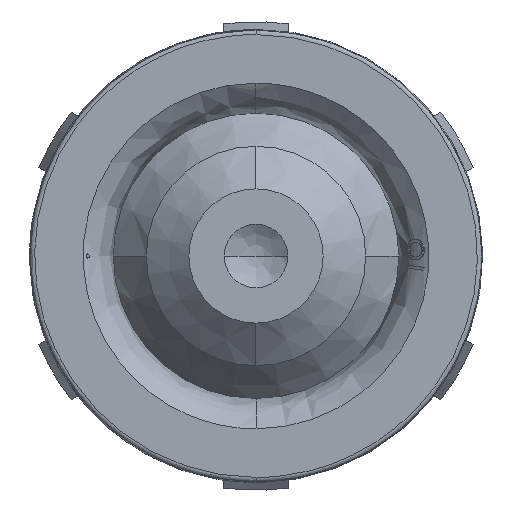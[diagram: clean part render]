
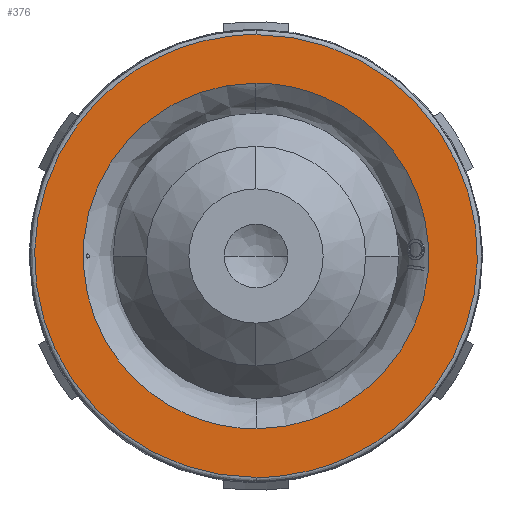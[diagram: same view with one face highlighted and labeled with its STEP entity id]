
A CAD part, left-side view. The second image highlights one B-rep face of the part: STEP entity #376.
In plain terms, the highlighted planar face has unit normal (-1, 0, 0).
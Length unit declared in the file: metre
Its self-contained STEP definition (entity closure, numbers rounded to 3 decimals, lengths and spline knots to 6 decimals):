
#376 = ADVANCED_FACE ( 'NONE', ( #25204, #5495 ), #18849, .F. ) ;
#3106 = CARTESIAN_POINT ( 'NONE',  ( 0., -0.031, 0.0155 ) ) ;
#3417 = DIRECTION ( 'NONE',  ( 0., 0., -1. ) ) ;
#4068 = EDGE_CURVE ( 'NONE', #7615, #14984, #8046, .T. ) ;
#5005 = CARTESIAN_POINT ( 'NONE',  ( 0., 0., -0.0155 ) ) ;
#5407 = ORIENTED_EDGE ( 'NONE', *, *, #13452, .F. ) ;
#5495 = FACE_OUTER_BOUND ( 'NONE', #19852, .T. ) ;
#7262 = VERTEX_POINT ( 'NONE', #22326 ) ;
#7615 = VERTEX_POINT ( 'NONE', #17571 ) ;
#8046 =( BOUNDED_CURVE ( )  B_SPLINE_CURVE ( 3, ( #18811, #24662, #8915, #14829 ),
 .UNSPECIFIED., .F., .F. ) 
 B_SPLINE_CURVE_WITH_KNOTS ( ( 4, 4 ),
 ( 0., 0.037824 ),
 .UNSPECIFIED. ) 
 CURVE ( )  GEOMETRIC_REPRESENTATION_ITEM ( )  RATIONAL_B_SPLINE_CURVE ( ( 0.97, 0.323, 0.323, 0.97 ) ) 
 REPRESENTATION_ITEM ( '' )  );
#8310 = CARTESIAN_POINT ( 'NONE',  ( 0., 0., -0.0155 ) ) ;
#8548 = ORIENTED_EDGE ( 'NONE', *, *, #11826, .F. ) ;
#8915 = CARTESIAN_POINT ( 'NONE',  ( 0., 0.0242, -0.0121 ) ) ;
#9495 = CARTESIAN_POINT ( 'NONE',  ( 0., 0., -0.0155 ) ) ;
#9858 = CARTESIAN_POINT ( 'NONE',  ( 0., 0., -0.0121 ) ) ;
#10175 = CARTESIAN_POINT ( 'NONE',  ( 0., 0., 0.0155 ) ) ;
#11826 = EDGE_CURVE ( 'NONE', #17128, #7262, #22362, .T. ) ;
#12311 = ORIENTED_EDGE ( 'NONE', *, *, #4068, .F. ) ;
#12658 = CARTESIAN_POINT ( 'NONE',  ( 0., 0., 0.0155 ) ) ;
#12771 = EDGE_LOOP ( 'NONE', ( #20508, #12311 ) ) ;
#13452 = EDGE_CURVE ( 'NONE', #7262, #17128, #18910, .T. ) ;
#13476 = DIRECTION ( 'NONE',  ( 1., 0., 0. ) ) ;
#14047 = CARTESIAN_POINT ( 'NONE',  ( 0., 0.031, -0.0155 ) ) ;
#14829 = CARTESIAN_POINT ( 'NONE',  ( 0., 0., -0.0121 ) ) ;
#14984 = VERTEX_POINT ( 'NONE', #19526 ) ;
#15468 = AXIS2_PLACEMENT_3D ( 'NONE', #21235, #13476, #3417 ) ;
#15689 = CARTESIAN_POINT ( 'NONE',  ( 0., -0.0242, -0.0121 ) ) ;
#16596 = EDGE_CURVE ( 'NONE', #14984, #7615, #25374, .T. ) ;
#17128 = VERTEX_POINT ( 'NONE', #9495 ) ;
#17571 = CARTESIAN_POINT ( 'NONE',  ( 0., 0., 0.0121 ) ) ;
#18811 = CARTESIAN_POINT ( 'NONE',  ( 0., 0., 0.0121 ) ) ;
#18849 = PLANE ( 'NONE',  #15468 ) ;
#18910 =( BOUNDED_CURVE ( )  B_SPLINE_CURVE ( 3, ( #12658, #3106, #20688, #5005 ),
 .UNSPECIFIED., .F., .F. ) 
 B_SPLINE_CURVE_WITH_KNOTS ( ( 4, 4 ),
 ( 0., 1. ),
 .UNSPECIFIED. ) 
 CURVE ( )  GEOMETRIC_REPRESENTATION_ITEM ( )  RATIONAL_B_SPLINE_CURVE ( ( 0.957, 0.319, 0.319, 0.957 ) ) 
 REPRESENTATION_ITEM ( '' )  );
#19526 = CARTESIAN_POINT ( 'NONE',  ( 0., 0., -0.0121 ) ) ;
#19852 = EDGE_LOOP ( 'NONE', ( #5407, #8548 ) ) ;
#20008 = CARTESIAN_POINT ( 'NONE',  ( 0., 0.031, 0.0155 ) ) ;
#20508 = ORIENTED_EDGE ( 'NONE', *, *, #16596, .F. ) ;
#20688 = CARTESIAN_POINT ( 'NONE',  ( 0., -0.031, -0.0155 ) ) ;
#21235 = CARTESIAN_POINT ( 'NONE',  ( 0., -0.015686, 0.015686 ) ) ;
#21804 = CARTESIAN_POINT ( 'NONE',  ( 0., 0., 0.0121 ) ) ;
#22326 = CARTESIAN_POINT ( 'NONE',  ( 0., 0., 0.0155 ) ) ;
#22362 =( BOUNDED_CURVE ( )  B_SPLINE_CURVE ( 3, ( #8310, #14047, #20008, #10175 ),
 .UNSPECIFIED., .F., .F. ) 
 B_SPLINE_CURVE_WITH_KNOTS ( ( 4, 4 ),
 ( 0., 1. ),
 .UNSPECIFIED. ) 
 CURVE ( )  GEOMETRIC_REPRESENTATION_ITEM ( )  RATIONAL_B_SPLINE_CURVE ( ( 0.957, 0.319, 0.319, 0.957 ) ) 
 REPRESENTATION_ITEM ( '' )  );
#24662 = CARTESIAN_POINT ( 'NONE',  ( 0., 0.0242, 0.0121 ) ) ;
#25204 = FACE_BOUND ( 'NONE', #12771, .T. ) ;
#25374 =( BOUNDED_CURVE ( )  B_SPLINE_CURVE ( 3, ( #9858, #15689, #25516, #21804 ),
 .UNSPECIFIED., .F., .F. ) 
 B_SPLINE_CURVE_WITH_KNOTS ( ( 4, 4 ),
 ( 0., 0.037824 ),
 .UNSPECIFIED. ) 
 CURVE ( )  GEOMETRIC_REPRESENTATION_ITEM ( )  RATIONAL_B_SPLINE_CURVE ( ( 0.97, 0.323, 0.323, 0.97 ) ) 
 REPRESENTATION_ITEM ( '' )  );
#25516 = CARTESIAN_POINT ( 'NONE',  ( 0., -0.0242, 0.0121 ) ) ;
